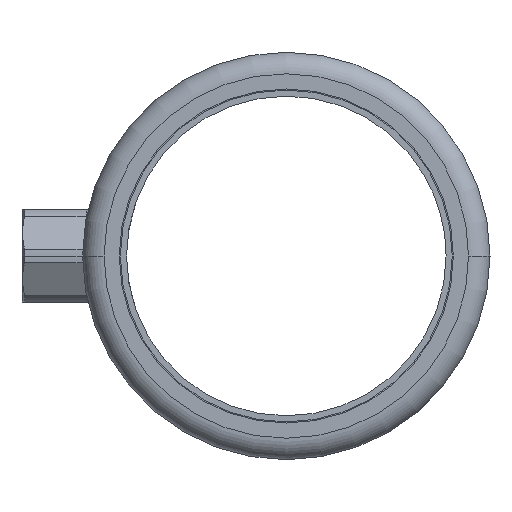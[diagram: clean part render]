
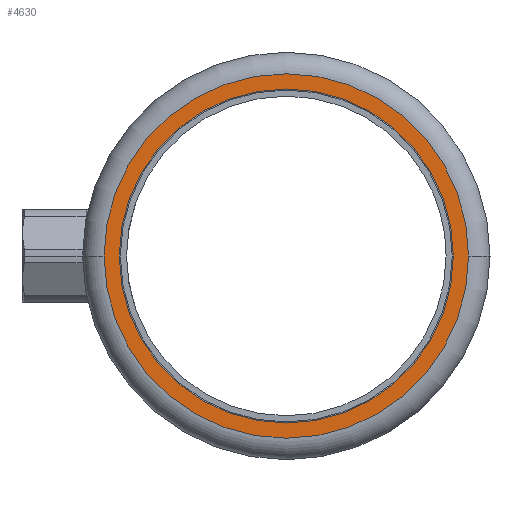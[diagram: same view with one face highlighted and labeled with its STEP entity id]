
A CAD part, left-side view. The second image highlights one B-rep face of the part: STEP entity #4630.
In plain terms, the highlighted planar face has unit normal (-1, 0, 0) as drawn and (1, 0, 0) by its records, which use the part's own axes.
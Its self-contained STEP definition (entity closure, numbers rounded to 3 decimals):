
#3320=CARTESIAN_POINT('',(85.,-54.35,0.));
#3330=VERTEX_POINT('',#3320);
#3360=CARTESIAN_POINT('',(85.,0.,0.));
#3370=DIRECTION('',(1.,0.,0.));
#3380=DIRECTION('',(0.,-1.,0.));
#3390=AXIS2_PLACEMENT_3D('',#3360,#3370,#3380);
#3400=CIRCLE('',#3390,54.35);
#3410=CARTESIAN_POINT('',(85.,54.35,0.));
#3420=VERTEX_POINT('',#3410);
#3430=EDGE_CURVE('',#3420,#3330,#3400,.T.);
#4380=CARTESIAN_POINT('',(85.,-54.925,0.));
#4390=DIRECTION('',(-1.,0.,-0.));
#4400=DIRECTION('',(0.,1.,0.));
#4410=AXIS2_PLACEMENT_3D('',#4380,#4390,#4400);
#4420=PLANE('',#4410);
#4430=EDGE_CURVE('',#3330,#3420,#3400,.T.);
#4440=ORIENTED_EDGE('',*,*,#4430,.F.);
#4450=ORIENTED_EDGE('',*,*,#3430,.F.);
#4460=EDGE_LOOP('',(#4450,#4440));
#4470=FACE_BOUND('',#4460,.T.);
#4480=CARTESIAN_POINT('',(85.,0.,0.));
#4490=DIRECTION('',(1.,0.,0.));
#4500=DIRECTION('',(0.,1.,0.));
#4510=AXIS2_PLACEMENT_3D('',#4480,#4490,#4500);
#4520=CIRCLE('',#4510,59.3);
#4530=CARTESIAN_POINT('',(85.,59.3,0.));
#4540=VERTEX_POINT('',#4530);
#4550=CARTESIAN_POINT('',(85.,-59.3,0.));
#4560=VERTEX_POINT('',#4550);
#4570=EDGE_CURVE('',#4540,#4560,#4520,.T.);
#4580=ORIENTED_EDGE('',*,*,#4570,.T.);
#4590=EDGE_CURVE('',#4560,#4540,#4520,.T.);
#4600=ORIENTED_EDGE('',*,*,#4590,.T.);
#4610=EDGE_LOOP('',(#4600,#4580));
#4620=FACE_OUTER_BOUND('',#4610,.T.);
#4630=ADVANCED_FACE('',(#4470,#4620),#4420,.F.);
